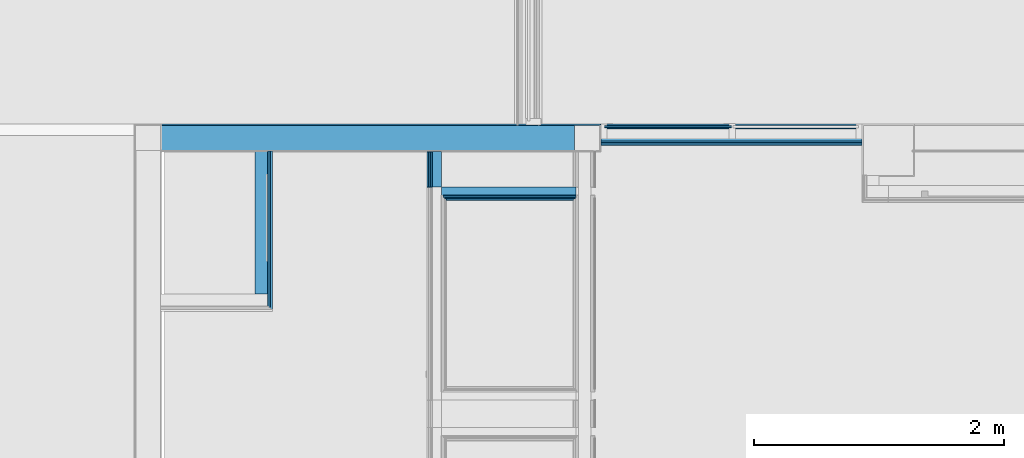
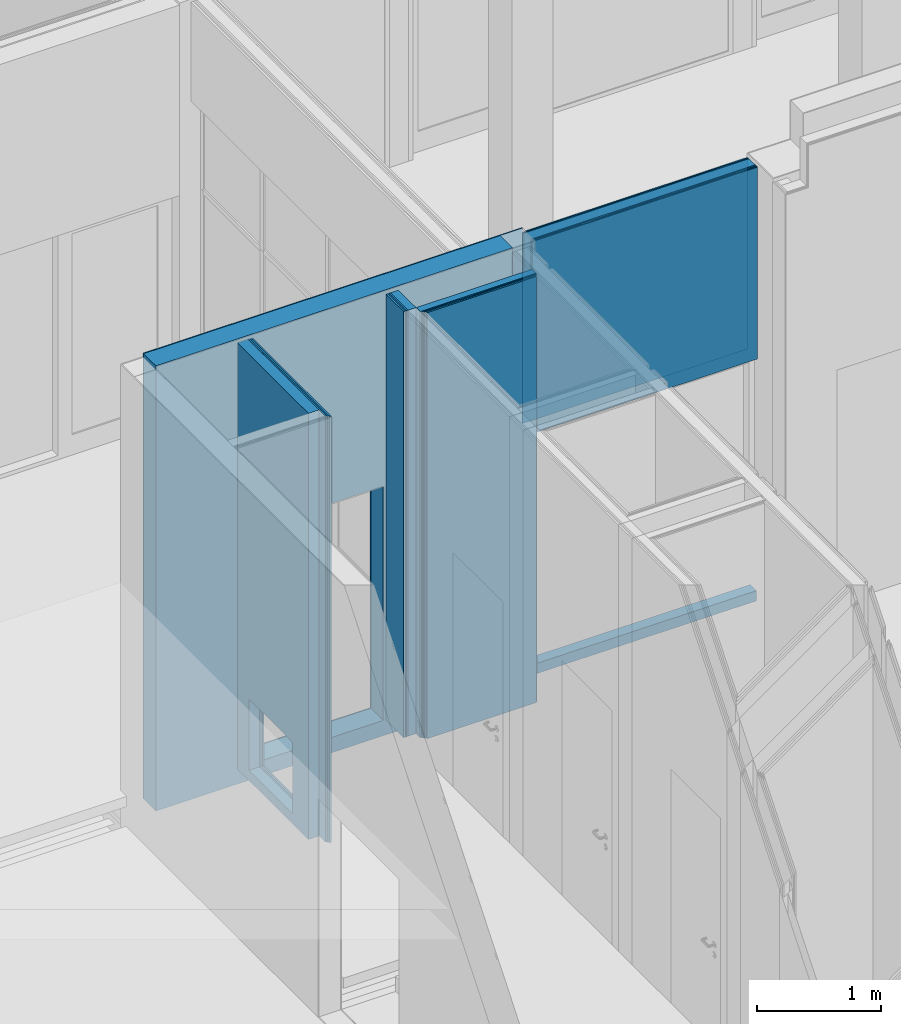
# One storey, part 209 of 260: 21 building element parts, 5 openings, 5 elements without a shape of their own.
"""IFC2X3 building model written with IfcOpenShell, lengths in millimetres."""

from ifc_helpers import new_model, entity, si_unit, converted_unit, derived_unit, money_unit, direction, frame, origin_with_axes, place, context, subcontext, project, spatial, faceted_brep, material, type_object, element, aggregate, save


model = new_model("IFC2X3")

# Units and contexts
model_context = context("Model", 3, precision=0.01, world=origin_with_axes(), true_north=direction((0.0, 1.0)))
body_context = subcontext(model_context, "Body", "Model", "MODEL_VIEW")
ifc_project = project(units=[si_unit("LENGTHUNIT", "METRE", prefix="MILLI"), si_unit("AREAUNIT", "SQUARE_METRE"), si_unit("VOLUMEUNIT", "CUBIC_METRE"), converted_unit("PLANEANGLEUNIT", "DEGREE", entity("IfcPlaneAngleMeasure", 0.0174532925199), si_unit("PLANEANGLEUNIT", "RADIAN"), dimensions=[0, 0, 0, 0, 0, 0, 0]), money_unit("EUR"), converted_unit("TIMEUNIT", "Year", entity("IfcTimeMeasure", 31556926.0), si_unit("TIMEUNIT", "SECOND"), dimensions=[0, 0, 1, 0, 0, 0, 0]), si_unit("MASSUNIT", "GRAM", prefix="KILO"), si_unit("THERMODYNAMICTEMPERATUREUNIT", "DEGREE_CELSIUS"), si_unit("LUMINOUSINTENSITYUNIT", "LUMEN"), si_unit("ENERGYUNIT", "JOULE", prefix="MEGA"), derived_unit("THERMALCONDUCTANCEUNIT", [(si_unit("POWERUNIT", "WATT"), 1), (si_unit("LENGTHUNIT", "METRE"), -1), (si_unit("THERMODYNAMICTEMPERATUREUNIT", "KELVIN"), -1)]), derived_unit("SPECIFICHEATCAPACITYUNIT", [(si_unit("ENERGYUNIT", "JOULE"), 1), (si_unit("MASSUNIT", "GRAM", prefix="KILO"), -1), (si_unit("THERMODYNAMICTEMPERATUREUNIT", "KELVIN"), -1)]), derived_unit("MASSDENSITYUNIT", [(si_unit("MASSUNIT", "GRAM", prefix="KILO"), 1), (si_unit("VOLUMEUNIT", "CUBIC_METRE"), -1)])], contexts=[model_context])

# Site, building, storey
site_placement = place(None, origin_with_axes())
site = spatial("IfcSite", under=ifc_project, at=site_placement, Name="Kolde pst 67a", CompositionType="ELEMENT")
building_placement = place(site_placement, origin_with_axes())
building = spatial("IfcBuilding", under=site, at=building_placement, Name="Riigigümnaasium", CompositionType="ELEMENT")
storey_placement = place(building_placement, origin_with_axes())
storey = spatial("IfcBuildingStorey", under=building, at=storey_placement, Name="1. korrus", CompositionType="ELEMENT", Elevation=0.0)

# Wall, building element parts
wall_type_1 = type_object("IfcWallType", Name="SS-MK-66/3_šahti sein+plaat 106", PredefinedType="NOTDEFINED")
wall_1_placement = place(storey_placement, frame((67450.8875093, 23840.2857374, 0.0), z_axis=(0.0, 0.0, 1.0), x_axis=(-1.0, -7.27337345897e-07, 0.0)))
wall_1 = element("IfcWall", 1, at=wall_1_placement, inside=storey, type_object=wall_type_1, Name="Varisein")
ifc_material_1 = material(Name="_VIIMISTLUSKIHT - viimistlus vastavalt SA osale")
building_element_part_1_placement = place(wall_1_placement, origin_with_axes())
building_element_part_1 = element("IfcBuildingElementPart", 2, at=building_element_part_1_placement, material=ifc_material_1, Name="_VIIMISTLUSKIHT - viimistlus vastavalt SA osale", context=body_context, shape_type="Brep", body=[
    faceted_brep([(1034.99996285, -15.0, 4185.0), (19.9997972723, -15.0, 4185.0), (19.9997972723, -15.0, 0.0), (1034.99996285, -15.0, 0.0), (19.9998171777, 0.0, 4185.0), (1034.99997376, 0.0, 4185.0), (19.9998171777, 0.0, 0.0), (1034.99997376, 0.0, 0.0)], [[[0, 1, 2, 3]], [[4, 1, 0, 5]], [[1, 4, 6, 2]], [[3, 2, 6, 7]], [[5, 0, 3, 7]], [[4, 5, 7, 6]]]),
])
ifc_material_2 = material(Name="_PLAATMATERJAL - kipsplaat veekindel")
building_element_part_2_placement = place(wall_1_placement, origin_with_axes())
building_element_part_2 = element("IfcBuildingElementPart", 3, at=building_element_part_2_placement, material=ifc_material_2, Name="_PLAATMATERJAL - kipsplaat veekindel", context=body_context, shape_type="Brep", body=[
    faceted_brep([(1049.99995376, -27.5, 4185.0), (4.9997806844, -27.5, 4185.0), (4.9997806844, -27.5, 0.0), (1049.99995376, -27.5, 0.0), (4.99979727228, -15.0, 4185.0), (1049.99996285, -15.0, 4185.0), (4.99979727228, -15.0, 0.0), (1049.99996285, -15.0, 0.0)], [[[0, 1, 2, 3]], [[4, 1, 0, 5]], [[1, 4, 6, 2]], [[3, 2, 6, 7]], [[5, 0, 3, 7]], [[4, 5, 7, 6]]]),
])
building_element_part_3_placement = place(wall_1_placement, origin_with_axes())
building_element_part_3 = element("IfcBuildingElementPart", 4, at=building_element_part_3_placement, material=ifc_material_2, Name="_PLAATMATERJAL - kipsplaat veekindel", context=body_context, shape_type="Brep", body=[
    faceted_brep([(1062.49994467, -40.0, 4185.0), (0.0, -40.0, 4185.0), (0.0, -40.0, 0.0), (1062.49994467, -40.0, 0.0), (0.0, -27.5, 4185.0), (1062.49995376, -27.5, 4185.0), (0.0, -27.5, 0.0), (1062.49995376, -27.5, 0.0)], [[[0, 1, 2, 3]], [[4, 1, 0, 5]], [[1, 4, 6, 2]], [[7, 3, 2, 6]], [[5, 0, 3, 7]], [[4, 5, 7, 6]]]),
])
ifc_material_3 = material(Name="_KARKASS - metallkarkass CW 75/50, mineraalvill karkassi vahel")
building_element_part_4_placement = place(wall_1_placement, origin_with_axes())
building_element_part_4 = element("IfcBuildingElementPart", 5, at=building_element_part_4_placement, material=ifc_material_3, Name="_KARKASS - metallkarkass CW 75/50, mineraalvill karkassi vahel", context=body_context, shape_type="Brep", body=[
    faceted_brep([(1074.99989666, -106.0, 4185.0), (0.0, -106.0, 4185.0), (0.0, -106.0, 0.0), (1074.99989666, -106.0, 0.0), (0.0, -40.0, 4185.0), (1074.99994467, -40.0, 4185.0), (0.0, -40.0, 0.0), (1074.99994467, -40.0, 0.0)], [[[0, 1, 2, 3]], [[4, 1, 0, 5]], [[1, 4, 6, 2]], [[7, 3, 2, 6]], [[5, 0, 3, 7]], [[4, 5, 7, 6]]]),
])
aggregate(wall_1, [building_element_part_1, building_element_part_2, building_element_part_3, building_element_part_4])

# Wall, opening, building element parts
wall_type_2 = type_object("IfcWallType", Name="SS-MK-10/8_ 2xkrohv 170", PredefinedType="NOTDEFINED")
wall_2_placement = place(storey_placement, frame((67650.8874919, 24449.9999727, -150.0), z_axis=(0.0, 0.0, 1.0), x_axis=(1.0, 0.0, 0.0)))
wall_2 = element("IfcWall", 6, at=wall_2_placement, inside=storey, type_object=wall_type_2, Name="Sisesein")
opening_1_placement = place(wall_2_placement, frame((1049.55589822, 0.0, 150.0), z_axis=(0.0, 0.0, 1.0), x_axis=(1.0, 0.0, 0.0)))
element("IfcOpeningElement", 7, at=opening_1_placement, cuts=wall_2, Name="Ukseava", context=body_context, shape_type="Brep", body=[
    faceted_brep([(1049.55589822, 340.0, 0.0), (1049.55589822, 340.0, 2300.0), (1049.55589822, -170.0, 2300.0), (1049.55589822, -170.0, 0.0), (-1049.55589822, 340.0, 0.0), (-1049.55589822, 340.0, 2300.0), (-1049.55589822, -170.0, 2300.0), (-1049.55589822, -170.0, 0.0)], [[[0, 1, 2, 3]], [[0, 4, 5, 1]], [[1, 5, 6, 2]], [[3, 2, 6, 7]], [[4, 0, 3, 7]], [[5, 4, 7, 6]]]),
])
building_element_part_5_placement = place(wall_2_placement, origin_with_axes())
building_element_part_5 = element("IfcBuildingElementPart", 8, at=building_element_part_5_placement, material=ifc_material_1, Name="_VIIMISTLUSKIHT - viimistlus vastavalt SA osale", context=body_context, shape_type="Brep", body=[
    faceted_brep([(2089.11179644, -10.0, 4320.0), (2089.11179644, 0.0, 4320.0), (0.0, 0.0, 4320.0), (0.0, -10.0, 4320.0), (2089.11179644, 0.0, 2450.0), (2089.11179644, -10.0, 2450.0), (0.0, 0.0, 2450.0), (0.0, -10.0, 2450.0)], [[[0, 1, 2, 3]], [[4, 1, 0, 5]], [[1, 4, 6, 2]], [[2, 6, 7, 3]], [[5, 0, 3, 7]], [[4, 5, 7, 6]]]),
])
ifc_material_4 = material(Name="_PLAATMATERJAL - tuletõkkekipsplaat, Knauf Red GKF või samaväärne")
building_element_part_6_placement = place(wall_2_placement, origin_with_axes())
building_element_part_6 = element("IfcBuildingElementPart", 9, at=building_element_part_6_placement, material=ifc_material_4, Name="_PLAATMATERJAL - tuletõkkekipsplaat, Knauf Red GKF või samaväärne", context=body_context, shape_type="Brep", body=[
    faceted_brep([(2089.11179644, -22.5, 4335.0), (2089.11179644, -9.99979479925, 4335.0), (0.0, -9.99979479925, 4335.0), (0.0, -22.5, 4335.0), (2089.11179644, -9.99988402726, 2450.0), (2089.11179644, -22.5, 2450.0), (0.0, -9.99988402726, 2450.0), (0.0, -22.5, 2450.0)], [[[0, 1, 2, 3]], [[4, 1, 0, 5]], [[1, 4, 6, 2]], [[2, 6, 7, 3]], [[5, 0, 3, 7]], [[4, 5, 7, 6]]]),
])
building_element_part_7_placement = place(wall_2_placement, origin_with_axes())
building_element_part_7 = element("IfcBuildingElementPart", 10, at=building_element_part_7_placement, material=ifc_material_4, Name="_PLAATMATERJAL - tuletõkkekipsplaat, Knauf Red GKF või samaväärne", context=body_context, shape_type="Brep", body=[
    faceted_brep([(2089.11179644, -35.0, 4335.0), (2089.11179644, -22.5, 4335.0), (0.0, -22.5, 4335.0), (0.0, -35.0, 4335.0), (2089.11179644, -22.5, 2450.0), (2089.11179644, -35.0, 2450.0), (0.0, -22.5, 2450.0), (0.0, -35.0, 2450.0)], [[[0, 1, 2, 3]], [[4, 1, 0, 5]], [[1, 4, 6, 2]], [[2, 6, 7, 3]], [[5, 0, 3, 7]], [[4, 5, 7, 6]]]),
])
ifc_material_5 = material(Name="_KARKASS - metallkarkass CW 100/50/06 ja UW 100/40/06, samm 600, vahel mineraalvill, helineeldetegur αw = 1.0,  ISOVER ACOUSTIC 100mm või samaväärne")
building_element_part_8_placement = place(wall_2_placement, origin_with_axes())
building_element_part_8 = element("IfcBuildingElementPart", 11, at=building_element_part_8_placement, material=ifc_material_5, Name="_KARKASS - metallkarkass CW 100/50/06 ja UW 100/40/06, samm 600, vahel mineraalvill, helineeldetegur αw = 1.0,  ISOVER ACOUSTIC 100mm või samaväärne", context=body_context, shape_type="Brep", body=[
    faceted_brep([(2089.11179644, -135.0, 4335.0), (2089.11179644, -35.0, 4335.0), (0.0, -35.0, 4335.0), (0.0, -135.0, 4335.0), (2089.11179644, -35.0, 2450.0), (2089.11179644, -135.0, 2450.0), (0.0, -35.0, 2450.0), (0.0, -135.0, 2450.0)], [[[0, 1, 2, 3]], [[4, 1, 0, 5]], [[1, 4, 6, 2]], [[2, 6, 7, 3]], [[5, 0, 3, 7]], [[4, 5, 7, 6]]]),
    faceted_brep([(0.0, -35.0, 49.9), (0.0, -35.0, 150.0), (2099.11179644, -35.0, 150.0), (2099.11179644, -35.0, 49.9), (0.0, -135.0, 49.9), (0.0, -135.0, 150.0), (2099.11179644, -135.0, 150.0), (2099.11179644, -135.0, 49.9)], [[[0, 1, 2, 3]], [[4, 5, 1, 0]], [[5, 6, 2, 1]], [[3, 2, 6, 7]], [[0, 3, 7, 4]], [[7, 6, 5, 4]]]),
])
building_element_part_9_placement = place(wall_2_placement, origin_with_axes())
building_element_part_9 = element("IfcBuildingElementPart", 12, at=building_element_part_9_placement, material=ifc_material_4, Name="_PLAATMATERJAL - tuletõkkekipsplaat, Knauf Red GKF või samaväärne", context=body_context, shape_type="Brep", body=[
    faceted_brep([(2089.11179644, -147.5, 4335.0), (2089.11179644, -135.0, 4335.0), (0.0, -135.0, 4335.0), (0.0, -147.5, 4335.0), (2089.11179644, -135.0, 2450.0), (2089.11179644, -147.5, 2450.0), (0.0, -135.0, 2450.0), (0.0, -147.5, 2450.0)], [[[0, 1, 2, 3]], [[4, 1, 0, 5]], [[1, 4, 6, 2]], [[2, 6, 7, 3]], [[5, 0, 3, 7]], [[4, 5, 7, 6]]]),
])
building_element_part_10_placement = place(wall_2_placement, origin_with_axes())
building_element_part_10 = element("IfcBuildingElementPart", 13, at=building_element_part_10_placement, material=ifc_material_4, Name="_PLAATMATERJAL - tuletõkkekipsplaat, Knauf Red GKF või samaväärne", context=body_context, shape_type="Brep", body=[
    faceted_brep([(2089.11179644, -160.0, 4335.0), (2089.11179644, -147.5, 4335.0), (0.0, -147.5, 4335.0), (0.0, -160.0, 4335.0), (2089.11179644, -147.5, 2450.0), (2089.11179644, -160.0, 2450.0), (0.0, -147.5, 2450.0), (0.0, -160.0, 2450.0)], [[[0, 1, 2, 3]], [[4, 1, 0, 5]], [[1, 4, 6, 2]], [[2, 6, 7, 3]], [[5, 0, 3, 7]], [[4, 5, 7, 6]]]),
])
building_element_part_11_placement = place(wall_2_placement, origin_with_axes())
building_element_part_11 = element("IfcBuildingElementPart", 14, at=building_element_part_11_placement, material=ifc_material_1, Name="_VIIMISTLUSKIHT - viimistlus vastavalt SA osale", context=body_context, shape_type="Brep", body=[
    faceted_brep([(2089.11179644, -170.0, 4335.0), (2089.11179644, -160.0, 4335.0), (0.0, -160.0, 4335.0), (0.0, -170.0, 4335.0), (2089.11179644, -160.0, 2450.0), (2089.11179644, -170.0, 2450.0), (0.0, -160.0, 2450.0), (0.0, -170.0, 2450.0)], [[[0, 1, 2, 3]], [[4, 1, 0, 5]], [[1, 4, 6, 2]], [[2, 6, 7, 3]], [[5, 0, 3, 7]], [[4, 5, 7, 6]]]),
])
aggregate(wall_2, [building_element_part_5, building_element_part_6, building_element_part_7, building_element_part_8, building_element_part_9, building_element_part_10, building_element_part_11])

# Wall, openings, building element parts
wall_type_3 = type_object("IfcWallType", Name="SS-RB-20/1_+2 krohv 55 dB 220", PredefinedType="NOTDEFINED")
wall_3_placement = place(storey_placement, frame((67650.8877428, 24240.0000357, -150.0), z_axis=(0.0, 0.0, 1.0), x_axis=(-1.0, -1.79021867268e-08, 0.0)))
wall_3 = element("IfcWall", 15, at=wall_3_placement, inside=storey, type_object=wall_type_3, Name="Sisesein")
opening_2_placement = place(wall_3_placement, origin_with_axes())
element("IfcOpeningElement", 16, at=opening_2_placement, cuts=wall_3, Name="Pale", context=body_context, shape_type="Brep", body=[
    faceted_brep([(10.0000039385, 9.99999982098, 0.0), (3.93847746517e-06, 10.0, 0.0), (3.93847746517e-06, 10.0, 4370.0), (10.0000039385, 9.99999982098, 4370.0), (10.000000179, -200.000000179, 0.0), (1.79018214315e-07, -200.0, 0.0), (1.79018214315e-07, -200.0, 4370.0), (10.000000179, -200.000000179, 4370.0)], [[[0, 1, 2, 3]], [[0, 4, 5, 1]], [[1, 5, 6, 2]], [[3, 2, 6, 7]], [[4, 0, 3, 7]], [[5, 4, 7, 6]]]),
    faceted_brep([(210.000003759, -3.75946125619e-06, 0.0), (10.0000037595, -1.79023865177e-07, 0.0), (10.0000037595, -1.79023865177e-07, 4370.0), (210.000003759, -3.75946125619e-06, 4370.0), (210.000000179, -200.000003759, 0.0), (10.000000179, -200.000000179, 0.0), (10.000000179, -200.000000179, 4370.0), (210.000000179, -200.000003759, 4370.0)], [[[0, 1, 2, 3]], [[0, 4, 5, 1]], [[1, 5, 6, 2]], [[3, 2, 6, 7]], [[4, 0, 3, 7]], [[5, 4, 7, 6]]]),
])
opening_3_placement = place(wall_3_placement, frame((2020.89300902, 0.0, 150.0), z_axis=(0.0, 0.0, 1.0), x_axis=(1.0, 0.0, 0.0)))
element("IfcOpeningElement", 17, at=opening_3_placement, cuts=wall_3, Name="Ukseava", context=body_context, shape_type="Brep", body=[
    faceted_brep([(610.000007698, 219.99998908, 0.0), (610.000007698, 219.99998908, 2299.99998999), (609.999995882, -440.00001092, 2299.99998999), (609.999995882, -440.00001092, 0.0), (-609.999992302, 220.00001092, 0.0), (-609.999992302, 220.00001092, 2299.99998999), (-610.000004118, -439.99998908, 2299.99998999), (-610.000004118, -439.99998908, 0.0)], [[[0, 1, 2, 3]], [[0, 4, 5, 1]], [[1, 5, 6, 2]], [[3, 2, 6, 7]], [[4, 0, 3, 7]], [[5, 4, 7, 6]]]),
])
opening_4_placement = place(wall_3_placement, frame((67650.8881767, 24239.9988246, 150.0), z_axis=(0.0, 0.0, 1.0), x_axis=(-1.0, 1.79021867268e-08, 0.0)))
element("IfcOpeningElement", 18, at=opening_4_placement, cuts=wall_3, Name="Tulekustuti nišš vastavalt SA osale", ObjectType="OPENING", context=body_context, shape_type="Brep", body=[
    faceted_brep([(66839.9941193, 24450.0000184, 780.0), (66839.9941193, 24450.0000184, 2080.0), (66839.9941211, 24350.0000184, 2080.0), (66839.9941211, 24350.0000184, 780.0), (66439.9941193, 24450.0000112, 780.0), (66439.9941193, 24450.0000112, 2080.0), (66439.9941211, 24350.0000112, 2080.0), (66439.9941211, 24350.0000112, 780.0)], [[[0, 1, 2, 3]], [[0, 4, 5, 1]], [[1, 5, 6, 2]], [[3, 2, 6, 7]], [[4, 0, 3, 7]], [[5, 4, 7, 6]]]),
])
ifc_material_6 = material(Name="_KANDETARIND - monteeritav raudbetoon vastavalt EK osale")
building_element_part_12_placement = place(wall_3_placement, origin_with_axes())
building_element_part_12 = element("IfcBuildingElementPart", 19, at=building_element_part_12_placement, material=ifc_material_6, Name="_KANDETARIND - monteeritav raudbetoon vastavalt EK osale", context=body_context, shape_type="Brep", body=[
    faceted_brep([(210.000003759, -3.75945674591e-06, 4370.0), (3521.35087367, -6.3039880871e-05, 4370.0), (3521.35087367, -6.3039880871e-05, 0.0), (210.000003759, -3.75945674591e-06, 0.0), (2630.89301278, -4.70987373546e-05, 150.0), (2630.89301278, -4.70987373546e-05, 2449.99998999), (1410.89301278, -2.52580676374e-05, 2449.99998999), (1410.89301278, -2.52580676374e-05, 150.0), (210.000000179, -200.000003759, 4370.0), (3521.35087009, -200.00006304, 4370.0), (3521.35087009, -200.00006304, 0.0), (210.000000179, -200.000003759, 0.0), (2630.8930092, -200.000047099, 150.0), (2630.8930092, -200.000047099, 2449.99998999), (1410.8930092, -200.000025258, 2449.99998999), (1410.8930092, -200.000025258, 150.0), (1210.8936197, -200.000021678, 2230.0), (1210.8936197, -200.000021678, 930.0), (810.893619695, -200.000014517, 930.0), (810.893619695, -200.000014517, 2230.0), (1210.8936197, -109.999997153, 930.0), (1210.8936197, -109.999997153, 2230.0), (810.893619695, -109.999997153, 930.0), (810.893619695, -109.999997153, 2230.0)], [[[0, 1, 2, 3], [4, 5, 6, 7]], [[8, 9, 1, 0]], [[2, 1, 9, 10]], [[3, 2, 10, 11]], [[8, 0, 3, 11]], [[12, 13, 5, 4]], [[13, 14, 6, 5]], [[14, 15, 7, 6]], [[15, 12, 4, 7]], [[11, 10, 9, 8], [16, 17, 18, 19], [12, 15, 14, 13]], [[20, 17, 16, 21]], [[22, 18, 17, 20]], [[23, 19, 18, 22]], [[21, 16, 19, 23]], [[22, 20, 21, 23]]]),
])
building_element_part_13_placement = place(wall_3_placement, origin_with_axes())
building_element_part_13 = element("IfcBuildingElementPart", 20, at=building_element_part_13_placement, material=ifc_material_1, Name="_VIIMISTLUSKIHT - viimistlus vastavalt SA osale", context=body_context, shape_type="Brep", body=[
    faceted_brep([(3521.35087009, -200.00006304, 4370.0), (3521.35087009, -200.00006304, 0.0), (-3.58043905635e-06, -200.0, 0.0), (-3.58043905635e-06, -200.0, 4370.0), (1210.8936197, -200.000021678, 2230.0), (810.893619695, -200.000014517, 2230.0), (810.893619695, -200.000014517, 930.0), (1210.8936197, -200.000021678, 930.0), (2630.8930092, -200.000047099, 150.0), (2630.8930092, -200.000047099, 2449.99998999), (1410.8930092, -200.000025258, 2449.99998999), (1410.8930092, -200.000025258, 150.0), (3521.35086991, -210.00006304, 4370.0), (3521.35086991, -210.00006304, 0.0), (-3.7594531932e-06, -210.0, 0.0), (-3.7594531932e-06, -210.0, 4370.0), (810.893619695, -209.999997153, 2230.0), (1210.8936197, -209.999997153, 2230.0), (810.893619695, -209.999997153, 930.0), (1210.8936197, -209.999997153, 930.0), (2630.89300902, -210.000047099, 150.0), (2630.89300902, -210.000047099, 2449.99998999), (1410.89300902, -210.000025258, 2449.99998999), (1410.89300902, -210.000025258, 150.0)], [[[0, 1, 2, 3], [4, 5, 6, 7], [8, 9, 10, 11]], [[12, 13, 1, 0]], [[1, 13, 14, 2]], [[15, 3, 2, 14]], [[12, 0, 3, 15]], [[16, 5, 4, 17]], [[18, 6, 5, 16]], [[19, 7, 6, 18]], [[17, 4, 7, 19]], [[20, 21, 9, 8]], [[21, 22, 10, 9]], [[22, 23, 11, 10]], [[23, 20, 8, 11]], [[13, 12, 15, 14], [18, 16, 17, 19], [20, 23, 22, 21]]]),
])
aggregate(wall_3, [building_element_part_12, building_element_part_13])

# Wall, opening, building element parts
wall_type_4 = type_object("IfcWallType", Name="SS-MK-10/2_šahti sein+plaat 140", PredefinedType="NOTDEFINED")
wall_4_placement = place(storey_placement, frame((65023.99473, 22953.9999746, 0.0), z_axis=(0.0, 0.0, 1.0), x_axis=(0.0, 1.0, 0.0)))
wall_4 = element("IfcWall", 21, at=wall_4_placement, inside=storey, type_object=wall_type_4, Name="Sisesein")
opening_5_placement = place(wall_4_placement, frame((748.136929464, 0.0, 100.0), z_axis=(0.0, 0.0, 1.0), x_axis=(1.0, 0.0, 0.0)))
element("IfcOpeningElement", 22, at=opening_5_placement, cuts=wall_4, Name="Hooldusluuk vastavalt SA osale", context=body_context, shape_type="Brep", body=[
    faceted_brep([(350.0, -280.0, 700.0), (350.0, -280.0, 0.0), (350.0, 140.0, 0.0), (350.0, 140.0, 700.0), (-350.0, -280.0, 700.0), (-350.0, -280.0, 0.0), (-350.0, 140.0, 0.0), (-350.0, 140.0, 700.0)], [[[0, 1, 2, 3]], [[0, 4, 5, 1]], [[1, 5, 6, 2]], [[3, 2, 6, 7]], [[4, 0, 3, 7]], [[5, 4, 7, 6]]]),
])
building_element_part_14_placement = place(wall_4_placement, origin_with_axes())
building_element_part_14 = element("IfcBuildingElementPart", 23, at=building_element_part_14_placement, material=ifc_material_5, Name="_KARKASS - metallkarkass CW 100/50/06 ja UW 100/40/06, samm 600, vahel mineraalvill, helineeldetegur αw = 1.0,  ISOVER ACOUSTIC 100mm või samaväärne", context=body_context, shape_type="Brep", body=[
    faceted_brep([(1283.00006103, 140.0, 4185.0), (1283.00006103, 140.0, 0.0), (139.995788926, 140.0, 0.0), (139.995788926, 140.0, 4185.0), (398.136929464, 140.0, 100.0), (1098.13692946, 140.0, 100.0), (1098.13692946, 140.0, 800.0), (398.136929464, 140.0, 800.0), (1283.00006103, 40.0, 4185.0), (1283.00006103, 40.0, 0.0), (139.998796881, 40.0, 0.0), (139.998796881, 40.0, 4185.0), (398.136929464, 40.0, 100.0), (1098.13692946, 40.0, 100.0), (1098.13692946, 40.0, 800.0), (398.136929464, 40.0, 800.0)], [[[0, 1, 2, 3], [4, 5, 6, 7]], [[8, 9, 1, 0]], [[1, 9, 10, 2]], [[3, 2, 10, 11]], [[8, 0, 3, 11]], [[12, 13, 5, 4]], [[13, 14, 6, 5]], [[14, 15, 7, 6]], [[15, 12, 4, 7]], [[11, 10, 9, 8], [12, 15, 14, 13]]]),
])
building_element_part_15_placement = place(wall_4_placement, origin_with_axes())
building_element_part_15 = element("IfcBuildingElementPart", 24, at=building_element_part_15_placement, material=ifc_material_2, Name="_PLAATMATERJAL - kipsplaat veekindel", context=body_context, shape_type="Brep", body=[
    faceted_brep([(1283.00006103, 40.0, 4185.0), (1283.00006103, 40.0, 0.0), (39.9987968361, 40.0, 0.0), (39.9987968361, 40.0, 4185.0), (398.136929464, 40.0, 100.0), (1098.13692946, 40.0, 100.0), (1098.13692946, 40.0, 800.0), (398.136929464, 40.0, 800.0), (1283.00006103, 27.5, 4185.0), (1283.00006103, 27.5, 0.0), (39.9991728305, 27.5, 0.0), (39.9991728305, 27.5, 4185.0), (398.136929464, 27.5, 100.0), (1098.13692946, 27.5, 100.0), (1098.13692946, 27.5, 800.0), (398.136929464, 27.5, 800.0)], [[[0, 1, 2, 3], [4, 5, 6, 7]], [[8, 9, 1, 0]], [[1, 9, 10, 2]], [[3, 2, 10, 11]], [[8, 0, 3, 11]], [[12, 13, 5, 4]], [[13, 14, 6, 5]], [[14, 15, 7, 6]], [[15, 12, 4, 7]], [[11, 10, 9, 8], [12, 15, 14, 13]]]),
])
building_element_part_16_placement = place(wall_4_placement, origin_with_axes())
building_element_part_16 = element("IfcBuildingElementPart", 25, at=building_element_part_16_placement, material=ifc_material_2, Name="_PLAATMATERJAL - kipsplaat veekindel", context=body_context, shape_type="Brep", body=[
    faceted_brep([(1283.00006103, 27.5, 4185.0), (1283.00006103, 27.5, 0.0), (27.4991728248, 27.5, 0.0), (27.4991728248, 27.5, 4185.0), (398.136929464, 27.5, 100.0), (1098.13692946, 27.5, 100.0), (1098.13692946, 27.5, 800.0), (398.136929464, 27.5, 800.0), (1283.00006103, 15.0, 4185.0), (1283.00006103, 15.0, 0.0), (27.4995488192, 15.0, 0.0), (27.4995488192, 15.0, 4185.0), (398.136929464, 15.0, 100.0), (1098.13692946, 15.0, 100.0), (1098.13692946, 15.0, 800.0), (398.136929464, 15.0, 800.0)], [[[0, 1, 2, 3], [4, 5, 6, 7]], [[8, 9, 1, 0]], [[1, 9, 10, 2]], [[3, 2, 10, 11]], [[8, 0, 3, 11]], [[12, 13, 5, 4]], [[13, 14, 6, 5]], [[14, 15, 7, 6]], [[15, 12, 4, 7]], [[11, 10, 9, 8], [12, 15, 14, 13]]]),
])
building_element_part_17_placement = place(wall_4_placement, origin_with_axes())
building_element_part_17 = element("IfcBuildingElementPart", 26, at=building_element_part_17_placement, material=ifc_material_1, Name="_VIIMISTLUSKIHT - viimistlus vastavalt SA osale", context=body_context, shape_type="Brep", body=[
    faceted_brep([(1283.00006103, 15.0, 4185.0), (1283.00006103, 15.0, 0.0), (14.9995488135, 15.0, 0.0), (14.9995488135, 15.0, 4185.0), (398.136929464, 15.0, 100.0), (1098.13692946, 15.0, 100.0), (1098.13692946, 15.0, 800.0), (398.136929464, 15.0, 800.0), (1283.00006103, 0.0, 4185.0), (1283.00006103, 0.0, 0.0), (15.0000000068, 0.0, 0.0), (15.0000000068, 0.0, 4185.0), (398.136929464, 0.0, 100.0), (1098.13692946, 0.0, 100.0), (1098.13692946, 0.0, 800.0), (398.136929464, 0.0, 800.0)], [[[0, 1, 2, 3], [4, 5, 6, 7]], [[8, 9, 1, 0]], [[1, 9, 10, 2]], [[3, 2, 10, 11]], [[8, 0, 3, 11]], [[12, 13, 5, 4]], [[13, 14, 6, 5]], [[14, 15, 7, 6]], [[15, 12, 4, 7]], [[11, 10, 9, 8], [12, 15, 14, 13]]]),
])
aggregate(wall_4, [building_element_part_14, building_element_part_15, building_element_part_16, building_element_part_17])

# Wall, building element parts
wall_type_5 = type_object("IfcWallType", Name="SS-MK-7,5/_plaatvarisein 115", PredefinedType="NOTDEFINED")
wall_5_placement = place(storey_placement, frame((66260.8875355, 23946.2849555, 0.0), z_axis=(0.0, 0.0, 1.0), x_axis=(0.0, 1.0, 0.0)))
wall_5 = element("IfcWall", 27, at=wall_5_placement, inside=storey, type_object=wall_type_5, Name="Sisesein")
building_element_part_18_placement = place(wall_5_placement, origin_with_axes())
building_element_part_18 = element("IfcBuildingElementPart", 28, at=building_element_part_18_placement, material=ifc_material_1, Name="_VIIMISTLUSKIHT - viimistlus vastavalt SA osale", context=body_context, shape_type="Brep", body=[
    faceted_brep([(283.715055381, 0.0, 4185.0), (283.715055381, -15.0, 4185.0), (283.715055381, -15.0, 0.0), (283.715055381, 0.0, 0.0), (0.0, -15.0, 4185.0), (0.0, 0.0, 4185.0), (0.0, -15.0, 0.0), (0.0, 0.0, 0.0)], [[[0, 1, 2, 3]], [[4, 1, 0, 5]], [[1, 4, 6, 2]], [[7, 3, 2, 6]], [[5, 0, 3, 7]], [[4, 5, 7, 6]]]),
])
building_element_part_19_placement = place(wall_5_placement, origin_with_axes())
building_element_part_19 = element("IfcBuildingElementPart", 29, at=building_element_part_19_placement, material=ifc_material_2, Name="_PLAATMATERJAL - kipsplaat veekindel", context=body_context, shape_type="Brep", body=[
    faceted_brep([(283.715055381, -15.0, 4185.0), (283.715055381, -27.5, 4185.0), (283.715055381, -27.5, 0.0), (283.715055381, -15.0, 0.0), (0.0, -27.5, 4185.0), (0.0, -15.0, 4185.0), (0.0, -27.5, 0.0), (0.0, -15.0, 0.0)], [[[0, 1, 2, 3]], [[4, 1, 0, 5]], [[1, 4, 6, 2]], [[7, 3, 2, 6]], [[5, 0, 3, 7]], [[4, 5, 7, 6]]]),
])
building_element_part_20_placement = place(wall_5_placement, origin_with_axes())
building_element_part_20 = element("IfcBuildingElementPart", 30, at=building_element_part_20_placement, material=ifc_material_2, Name="_PLAATMATERJAL - kipsplaat veekindel", context=body_context, shape_type="Brep", body=[
    faceted_brep([(283.715055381, -27.5, 4185.0), (283.715055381, -40.0, 4185.0), (283.715055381, -40.0, 0.0), (283.715055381, -27.5, 0.0), (0.0, -40.0, 4185.0), (0.0, -27.5, 4185.0), (0.0, -40.0, 0.0), (0.0, -27.5, 0.0)], [[[0, 1, 2, 3]], [[4, 1, 0, 5]], [[1, 4, 6, 2]], [[7, 3, 2, 6]], [[5, 0, 3, 7]], [[4, 5, 7, 6]]]),
])
building_element_part_21_placement = place(wall_5_placement, origin_with_axes())
building_element_part_21 = element("IfcBuildingElementPart", 31, at=building_element_part_21_placement, material=ifc_material_3, Name="_KARKASS - metallkarkass CW 75/50, mineraalvill karkassi vahel", context=body_context, shape_type="Brep", body=[
    faceted_brep([(283.715055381, -40.0, 4185.0), (283.715055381, -115.0, 4185.0), (283.715055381, -115.0, 0.0), (283.715055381, -40.0, 0.0), (0.0, -115.0, 4185.0), (0.0, -40.0, 4185.0), (0.0, -115.0, 0.0), (0.0, -40.0, 0.0)], [[[0, 1, 2, 3]], [[4, 1, 0, 5]], [[1, 4, 6, 2]], [[7, 3, 2, 6]], [[5, 0, 3, 7]], [[4, 5, 7, 6]]]),
])
aggregate(wall_5, [building_element_part_18, building_element_part_19, building_element_part_20, building_element_part_21])

save(model, "model.ifc")
